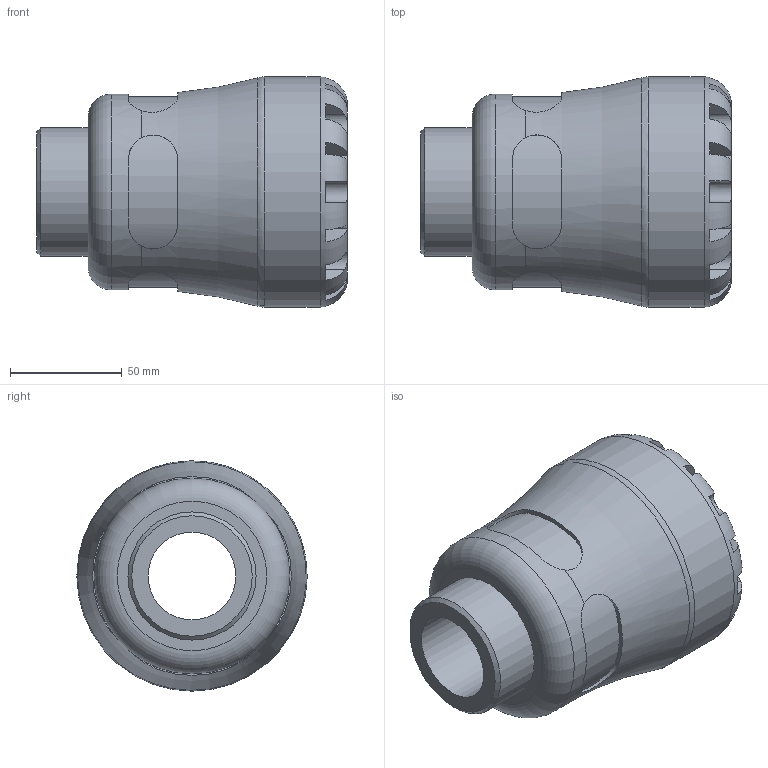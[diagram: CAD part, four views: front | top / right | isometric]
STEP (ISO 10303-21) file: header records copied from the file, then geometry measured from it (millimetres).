
FILE_DESCRIPTION(/* description */ ('PLASSON MALE INTEGRAL BRASS THREAD 63X2" SERIES 1'),/* implementation_level */ '2;1');
FILE_NAME(/* name */ 'C:\Dropbox\KIMPROJECTS-Inventor\99-16-3568-Processing\1072\107200063020_197200063020.ipt.stp',/* time_stamp */ '2017-01-22T10:49:15+02:00',/* author */ ('KIM'),/* organization */ (''),/* preprocessor_version */ 'ST-DEVELOPER v15.6',/* originating_system */ 'Autodesk Inventor 2015',/* authorisation */ '');
FILE_SCHEMA (('AUTOMOTIVE_DESIGN { 1 0 10303 214 3 1 1 }'));
Length unit declared in the file: millimetre
Products named in the file (1): 107200063020_197200063020
Bounding box: 139 x 103 x 103 mm (x, y, z)
Volume: 511978.6 mm3; surface area: 75258.8 mm2
Topology: 1 solids, 1 shells, 107 faces, 279 edges, 176 vertices
Faces by surface type: plane 68, cylinder 33, torus 4, cone 2
Full cylindrical faces by diameter (mm): 39.296 x1, 57.296 x1, 63 x1, 87.55 x1, 103 x1
Entity records: 4123 total; most frequent: CARTESIAN_POINT 1506, ORIENTED_EDGE 530, DIRECTION 498, EDGE_CURVE 265, AXIS2_PLACEMENT_3D 205, VERTEX_POINT 173, EDGE_LOOP 122, STYLED_ITEM 108
